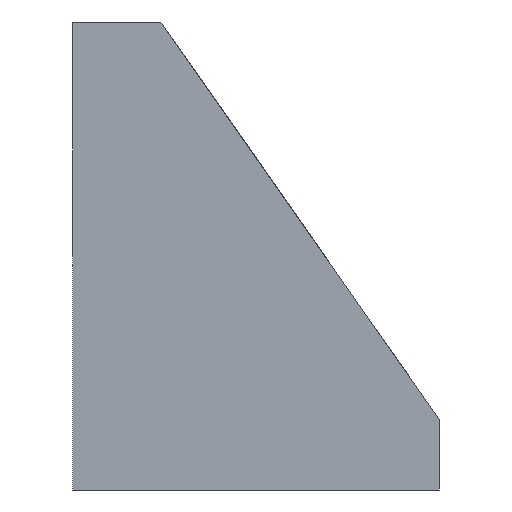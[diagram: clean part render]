
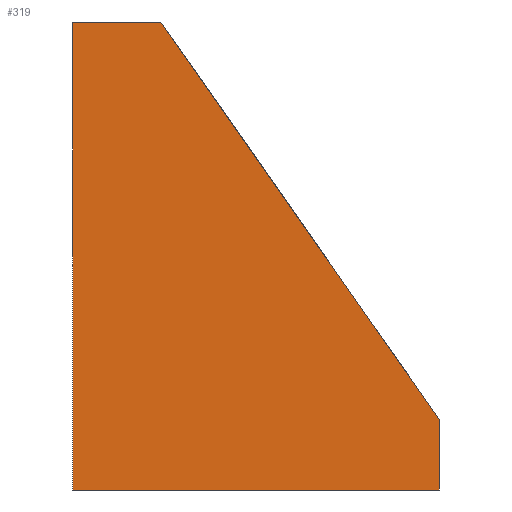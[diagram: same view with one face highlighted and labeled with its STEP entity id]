
A CAD part, left-side view. The second image highlights one B-rep face of the part: STEP entity #319.
In plain terms, the highlighted planar face has unit normal (-1, 0, 0).
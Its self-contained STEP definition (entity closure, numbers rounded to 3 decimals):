
#22 = VERTEX_POINT('',#23);
#23 = CARTESIAN_POINT('',(0.,0.,0.));
#32 = PLANE('',#33);
#33 = AXIS2_PLACEMENT_3D('',#34,#35,#36);
#34 = CARTESIAN_POINT('',(0.,0.,0.));
#35 = DIRECTION('',(0.,0.,1.));
#36 = DIRECTION('',(0.,1.,0.));
#44 = PLANE('',#45);
#45 = AXIS2_PLACEMENT_3D('',#46,#47,#48);
#46 = CARTESIAN_POINT('',(0.,0.,16.));
#47 = DIRECTION('',(-0.,1.,0.));
#48 = DIRECTION('',(0.,0.,-1.));
#85 = VERTEX_POINT('',#86);
#86 = CARTESIAN_POINT('',(0.,83.093,0.));
#100 = PLANE('',#101);
#101 = AXIS2_PLACEMENT_3D('',#102,#103,#104);
#102 = CARTESIAN_POINT('',(0.,83.093,0.));
#103 = DIRECTION('',(0.,-1.,0.));
#104 = DIRECTION('',(0.,0.,1.));
#112 = EDGE_CURVE('',#22,#85,#113,.T.);
#113 = SURFACE_CURVE('',#114,(#118,#125),.PCURVE_S1.);
#114 = LINE('',#115,#116);
#115 = CARTESIAN_POINT('',(0.,0.,0.));
#116 = VECTOR('',#117,1.);
#117 = DIRECTION('',(0.,1.,0.));
#118 = PCURVE('',#32,#119);
#119 = DEFINITIONAL_REPRESENTATION('',(#120),#124);
#120 = LINE('',#121,#122);
#121 = CARTESIAN_POINT('',(0.,0.));
#122 = VECTOR('',#123,1.);
#123 = DIRECTION('',(1.,0.));
#124 = ( GEOMETRIC_REPRESENTATION_CONTEXT(2) 
PARAMETRIC_REPRESENTATION_CONTEXT() REPRESENTATION_CONTEXT('2D SPACE',''
  ) );
#125 = PCURVE('',#126,#131);
#126 = PLANE('',#127);
#127 = AXIS2_PLACEMENT_3D('',#128,#129,#130);
#128 = CARTESIAN_POINT('',(0.,51.316,43.542));
#129 = DIRECTION('',(1.,0.,0.));
#130 = DIRECTION('',(-0.,0.,1.));
#131 = DEFINITIONAL_REPRESENTATION('',(#132),#136);
#132 = LINE('',#133,#134);
#133 = CARTESIAN_POINT('',(-43.542,51.316));
#134 = VECTOR('',#135,1.);
#135 = DIRECTION('',(0.,-1.));
#136 = ( GEOMETRIC_REPRESENTATION_CONTEXT(2) 
PARAMETRIC_REPRESENTATION_CONTEXT() REPRESENTATION_CONTEXT('2D SPACE',''
  ) );
#248 = VERTEX_POINT('',#249);
#249 = CARTESIAN_POINT('',(0.,0.,16.));
#265 = PLANE('',#266);
#266 = AXIS2_PLACEMENT_3D('',#267,#268,#269);
#267 = CARTESIAN_POINT('',(0.,63.093,106.107));
#268 = DIRECTION('',(0.,0.819,-0.574));
#269 = DIRECTION('',(0.,-0.574,-0.819));
#299 = EDGE_CURVE('',#248,#22,#300,.T.);
#300 = SURFACE_CURVE('',#301,(#305,#312),.PCURVE_S1.);
#301 = LINE('',#302,#303);
#302 = CARTESIAN_POINT('',(0.,0.,16.));
#303 = VECTOR('',#304,1.);
#304 = DIRECTION('',(0.,0.,-1.));
#305 = PCURVE('',#44,#306);
#306 = DEFINITIONAL_REPRESENTATION('',(#307),#311);
#307 = LINE('',#308,#309);
#308 = CARTESIAN_POINT('',(0.,0.));
#309 = VECTOR('',#310,1.);
#310 = DIRECTION('',(1.,0.));
#311 = ( GEOMETRIC_REPRESENTATION_CONTEXT(2) 
PARAMETRIC_REPRESENTATION_CONTEXT() REPRESENTATION_CONTEXT('2D SPACE',''
  ) );
#312 = PCURVE('',#126,#313);
#313 = DEFINITIONAL_REPRESENTATION('',(#314),#318);
#314 = LINE('',#315,#316);
#315 = CARTESIAN_POINT('',(-27.542,51.316));
#316 = VECTOR('',#317,1.);
#317 = DIRECTION('',(-1.,0.));
#318 = ( GEOMETRIC_REPRESENTATION_CONTEXT(2) 
PARAMETRIC_REPRESENTATION_CONTEXT() REPRESENTATION_CONTEXT('2D SPACE',''
  ) );
#319 = ADVANCED_FACE('',(#320),#126,.F.);
#320 = FACE_BOUND('',#321,.F.);
#321 = EDGE_LOOP('',(#322,#323,#346,#374,#395));
#322 = ORIENTED_EDGE('',*,*,#112,.T.);
#323 = ORIENTED_EDGE('',*,*,#324,.T.);
#324 = EDGE_CURVE('',#85,#325,#327,.T.);
#325 = VERTEX_POINT('',#326);
#326 = CARTESIAN_POINT('',(0.,83.093,106.107));
#327 = SURFACE_CURVE('',#328,(#332,#339),.PCURVE_S1.);
#328 = LINE('',#329,#330);
#329 = CARTESIAN_POINT('',(0.,83.093,0.));
#330 = VECTOR('',#331,1.);
#331 = DIRECTION('',(0.,0.,1.));
#332 = PCURVE('',#126,#333);
#333 = DEFINITIONAL_REPRESENTATION('',(#334),#338);
#334 = LINE('',#335,#336);
#335 = CARTESIAN_POINT('',(-43.542,-31.778));
#336 = VECTOR('',#337,1.);
#337 = DIRECTION('',(1.,0.));
#338 = ( GEOMETRIC_REPRESENTATION_CONTEXT(2) 
PARAMETRIC_REPRESENTATION_CONTEXT() REPRESENTATION_CONTEXT('2D SPACE',''
  ) );
#339 = PCURVE('',#100,#340);
#340 = DEFINITIONAL_REPRESENTATION('',(#341),#345);
#341 = LINE('',#342,#343);
#342 = CARTESIAN_POINT('',(0.,0.));
#343 = VECTOR('',#344,1.);
#344 = DIRECTION('',(1.,0.));
#345 = ( GEOMETRIC_REPRESENTATION_CONTEXT(2) 
PARAMETRIC_REPRESENTATION_CONTEXT() REPRESENTATION_CONTEXT('2D SPACE',''
  ) );
#346 = ORIENTED_EDGE('',*,*,#347,.T.);
#347 = EDGE_CURVE('',#325,#348,#350,.T.);
#348 = VERTEX_POINT('',#349);
#349 = CARTESIAN_POINT('',(0.,63.093,106.107));
#350 = SURFACE_CURVE('',#351,(#355,#362),.PCURVE_S1.);
#351 = LINE('',#352,#353);
#352 = CARTESIAN_POINT('',(0.,83.093,106.107));
#353 = VECTOR('',#354,1.);
#354 = DIRECTION('',(0.,-1.,0.));
#355 = PCURVE('',#126,#356);
#356 = DEFINITIONAL_REPRESENTATION('',(#357),#361);
#357 = LINE('',#358,#359);
#358 = CARTESIAN_POINT('',(62.565,-31.778));
#359 = VECTOR('',#360,1.);
#360 = DIRECTION('',(0.,1.));
#361 = ( GEOMETRIC_REPRESENTATION_CONTEXT(2) 
PARAMETRIC_REPRESENTATION_CONTEXT() REPRESENTATION_CONTEXT('2D SPACE',''
  ) );
#362 = PCURVE('',#363,#368);
#363 = PLANE('',#364);
#364 = AXIS2_PLACEMENT_3D('',#365,#366,#367);
#365 = CARTESIAN_POINT('',(0.,83.093,106.107));
#366 = DIRECTION('',(0.,0.,-1.));
#367 = DIRECTION('',(0.,-1.,0.));
#368 = DEFINITIONAL_REPRESENTATION('',(#369),#373);
#369 = LINE('',#370,#371);
#370 = CARTESIAN_POINT('',(0.,-0.));
#371 = VECTOR('',#372,1.);
#372 = DIRECTION('',(1.,0.));
#373 = ( GEOMETRIC_REPRESENTATION_CONTEXT(2) 
PARAMETRIC_REPRESENTATION_CONTEXT() REPRESENTATION_CONTEXT('2D SPACE',''
  ) );
#374 = ORIENTED_EDGE('',*,*,#375,.T.);
#375 = EDGE_CURVE('',#348,#248,#376,.T.);
#376 = SURFACE_CURVE('',#377,(#381,#388),.PCURVE_S1.);
#377 = LINE('',#378,#379);
#378 = CARTESIAN_POINT('',(0.,63.093,106.107));
#379 = VECTOR('',#380,1.);
#380 = DIRECTION('',(0.,-0.574,-0.819));
#381 = PCURVE('',#126,#382);
#382 = DEFINITIONAL_REPRESENTATION('',(#383),#387);
#383 = LINE('',#384,#385);
#384 = CARTESIAN_POINT('',(62.565,-11.778));
#385 = VECTOR('',#386,1.);
#386 = DIRECTION('',(-0.819,0.574));
#387 = ( GEOMETRIC_REPRESENTATION_CONTEXT(2) 
PARAMETRIC_REPRESENTATION_CONTEXT() REPRESENTATION_CONTEXT('2D SPACE',''
  ) );
#388 = PCURVE('',#265,#389);
#389 = DEFINITIONAL_REPRESENTATION('',(#390),#394);
#390 = LINE('',#391,#392);
#391 = CARTESIAN_POINT('',(0.,0.));
#392 = VECTOR('',#393,1.);
#393 = DIRECTION('',(1.,0.));
#394 = ( GEOMETRIC_REPRESENTATION_CONTEXT(2) 
PARAMETRIC_REPRESENTATION_CONTEXT() REPRESENTATION_CONTEXT('2D SPACE',''
  ) );
#395 = ORIENTED_EDGE('',*,*,#299,.T.);
